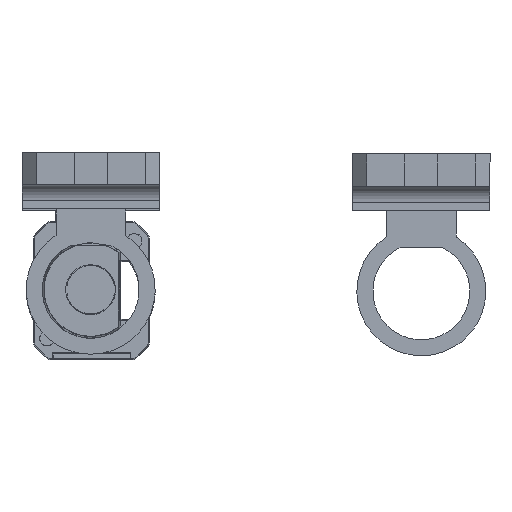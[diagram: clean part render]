
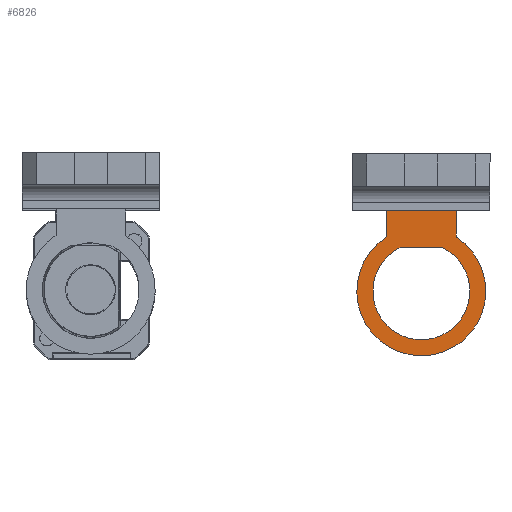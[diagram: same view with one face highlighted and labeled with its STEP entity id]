
A CAD part, left-side view. The second image highlights one B-rep face of the part: STEP entity #6826.
In plain terms, the highlighted planar face has unit normal (-1, 0, 0).
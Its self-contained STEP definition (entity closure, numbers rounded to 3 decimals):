
#6592=CARTESIAN_POINT('',(-4.5,-8.653,19.984));
#6593=VERTEX_POINT('',#6592);
#6608=CARTESIAN_POINT('',(-4.5,8.572,19.984));
#6609=VERTEX_POINT('',#6608);
#6616=CARTESIAN_POINT('',(-4.5,8.572,19.984));
#6617=DIRECTION('',(0.0,-1.0,0.0));
#6618=VECTOR('',#6617,17.224);
#6619=LINE('',#6616,#6618);
#6620=EDGE_CURVE('',#6609,#6593,#6619,.T.);
#6704=CARTESIAN_POINT('',(-4.5,5.009,10.907));
#6705=VERTEX_POINT('',#6704);
#6720=CARTESIAN_POINT('',(-4.5,-5.009,10.907));
#6721=VERTEX_POINT('',#6720);
#6728=CARTESIAN_POINT('',(-4.5,-5.009,10.907));
#6729=DIRECTION('',(0.0,1.0,0.0));
#6730=VECTOR('',#6729,10.018);
#6731=LINE('',#6728,#6730);
#6732=EDGE_CURVE('',#6721,#6705,#6731,.T.);
#6742=CARTESIAN_POINT('',(-4.5,8.572,13.468));
#6743=VERTEX_POINT('',#6742);
#6752=CARTESIAN_POINT('',(-4.5,8.572,13.468));
#6753=DIRECTION('',(0.0,0.0,1.0));
#6754=VECTOR('',#6753,6.517);
#6755=LINE('',#6752,#6754);
#6756=EDGE_CURVE('',#6743,#6609,#6755,.T.);
#6775=CARTESIAN_POINT('',(-4.5,-8.653,13.416));
#6776=VERTEX_POINT('',#6775);
#6790=CARTESIAN_POINT('',(-4.5,-8.653,19.984));
#6791=DIRECTION('',(0.0,0.0,-1.0));
#6792=VECTOR('',#6791,6.568);
#6793=LINE('',#6790,#6792);
#6794=EDGE_CURVE('',#6593,#6776,#6793,.T.);
#6799=CARTESIAN_POINT('',(-4.5,1.451,0.));
#6800=DIRECTION('',(-1.0,0.0,0.0));
#6801=DIRECTION('',(0.0,1.0,0.0));
#6802=AXIS2_PLACEMENT_3D('',#6799,#6800,#6801);
#6803=PLANE('',#6802);
#6804=CARTESIAN_POINT('',(-4.5,0.,0.));
#6805=DIRECTION('',(1.0,0.0,0.0));
#6806=DIRECTION('',(0.0,1.0,0.0));
#6807=AXIS2_PLACEMENT_3D('',#6804,#6805,#6806);
#6808=CIRCLE('',#6807,15.964);
#6809=EDGE_CURVE('',#6776,#6743,#6808,.T.);
#6810=ORIENTED_EDGE('',*,*,#6809,.F.);
#6811=ORIENTED_EDGE('',*,*,#6794,.F.);
#6812=ORIENTED_EDGE('',*,*,#6620,.F.);
#6813=ORIENTED_EDGE('',*,*,#6756,.F.);
#6814=EDGE_LOOP('',(#6810,#6811,#6812,#6813));
#6815=FACE_OUTER_BOUND('',#6814,.T.);
#6816=CARTESIAN_POINT('',(-4.5,0.,0.));
#6817=DIRECTION('',(-1.0,0.0,0.0));
#6818=DIRECTION('',(0.0,1.0,0.0));
#6819=AXIS2_PLACEMENT_3D('',#6816,#6817,#6818);
#6820=CIRCLE('',#6819,12.002);
#6821=EDGE_CURVE('',#6705,#6721,#6820,.T.);
#6822=ORIENTED_EDGE('',*,*,#6821,.F.);
#6823=ORIENTED_EDGE('',*,*,#6732,.F.);
#6824=EDGE_LOOP('',(#6822,#6823));
#6825=FACE_BOUND('',#6824,.T.);
#6826=ADVANCED_FACE('',(#6815,#6825),#6803,.T.);
